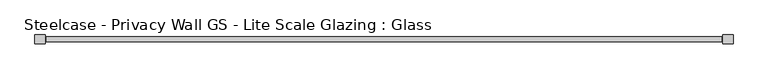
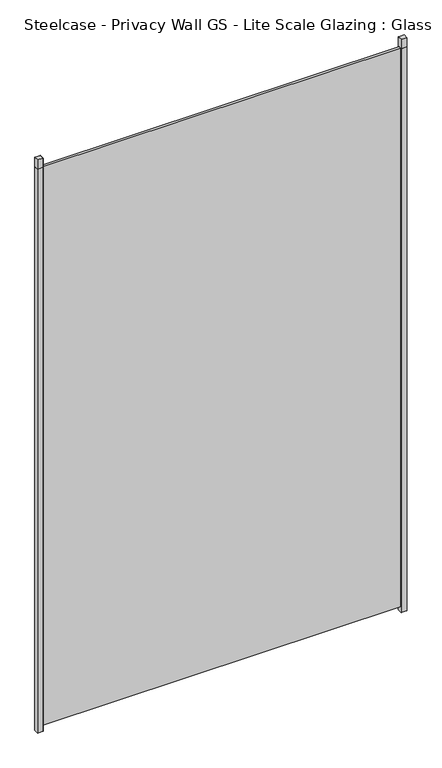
"""IFC4 building model written with IfcOpenShell, lengths in millimetres: plate geometry, Steelcase - Privacy Wall GS - Lite Scale Glazing : Glass."""

from ifc_helpers import new_model, si_unit, frame, origin, origin_with_axes, place, context, project, spatial, polyline, outline, extrude, source, transform, mapped, element, save


def steelcase_privacy_wall_gs_lite_scale_glazing_glass_a86f505f(model_context):
    return source(origin(), model_context, "Body", "SweptSolid", [
        extrude(outline(polyline([(902.728729, 11.7474777), (929.7161957, 11.7474777), (929.7161957, -11.7475002), (902.728729, -11.7475002), (902.728729, 11.7474777)])), frame((0.0, 0.0, 2970.784), z_axis=(0.0, 0.0, 1.0), x_axis=(1.0, 0.0, 0.0)), (0.0, 0.0, 1.0), 49.276),
        extrude(outline(polyline([(929.7161957, 11.7474777), (929.7161957, -11.7475002), (902.728729, -11.7475002), (902.728729, -6.3896792), (925.2239708, -6.3896792), (925.2239708, 6.3500051), (902.728729, 6.3500051), (902.728729, 11.7474777), (929.7161957, 11.7474777)])), frame((0.0, 0.0, -27.8638004), z_axis=(0.0, 0.0, 1.0), x_axis=(1.0, 0.0, 0.0)), (0.0, 0.0, 1.0), 2998.6478004),
        extrude(outline(polyline([(902.728729, 11.7474777), (902.728729, -11.7474954), (901.7, -11.7474954), (901.7, 11.7474777), (902.728729, 11.7474777)])), frame((0.0, 0.0, -27.8638004), z_axis=(0.0, 0.0, 1.0), x_axis=(1.0, 0.0, 0.0)), (0.0, 0.0, 1.0), 3047.9238004),
        extrude(outline(polyline([(-902.728729, 11.7474777), (-902.728729, -11.7475002), (-929.7161957, -11.7475002), (-929.7161957, 11.7474777), (-902.728729, 11.7474777)])), frame((0.0, 0.0, 2970.784), z_axis=(0.0, 0.0, 1.0), x_axis=(1.0, 0.0, 0.0)), (0.0, 0.0, 1.0), 49.276),
        extrude(outline(polyline([(-929.7161957, 11.7474777), (-902.728729, 11.7474777), (-902.728729, 6.3500051), (-925.2239708, 6.3500051), (-925.2239708, -6.3896792), (-902.728729, -6.3896792), (-902.728729, -11.7475002), (-929.7161957, -11.7475002), (-929.7161957, 11.7474777)])), frame((0.0, 0.0, -27.8638004), z_axis=(0.0, 0.0, 1.0), x_axis=(1.0, 0.0, 0.0)), (0.0, 0.0, 1.0), 2998.6478004),
        extrude(outline(polyline([(-902.728729, 11.7474777), (-901.7, 11.7474777), (-901.7, -11.7474954), (-902.728729, -11.7474954), (-902.728729, 11.7474777)])), frame((0.0, 0.0, -27.8638004), z_axis=(0.0, 0.0, 1.0), x_axis=(1.0, 0.0, 0.0)), (0.0, 0.0, 1.0), 3047.9238004),
        extrude(outline(polyline([(-899.668, -6.349956), (-899.668, 6.3502015), (899.668, 6.3502015), (899.668, -6.349956), (-899.668, -6.349956)])), origin_with_axes(), (0.0, 0.0, 1.0), 2970.784),
    ])


if __name__ == "__main__":
    model = new_model("IFC4")
    model_context = context("Model", 3, world=origin())
    ifc_project = project(units=[si_unit("LENGTHUNIT", "METRE", prefix="MILLI")], contexts=[model_context])
    site = spatial("IfcSite", under=ifc_project)
    building = spatial("IfcBuilding", under=site)
    placement = place(None, origin())
    steelcase_privacy_wall_gs_lite_scale_glazing_glass_shape = steelcase_privacy_wall_gs_lite_scale_glazing_glass_a86f505f(model_context)
    element("IfcPlate", 1, ObjectType="Steelcase - Privacy Wall GS - Lite Scale Glazing : Glass", at=placement, inside=building, context=model_context, shape_type="MappedRepresentation", body=[
        mapped(steelcase_privacy_wall_gs_lite_scale_glazing_glass_shape, transform((0.0, 0.0, 0.0), x_axis=(1.0, 0.0, 0.0), y_axis=(0.0, 1.0, 0.0), z_axis=(0.0, 0.0, 1.0))),
    ])
    save(model, "model.ifc")
